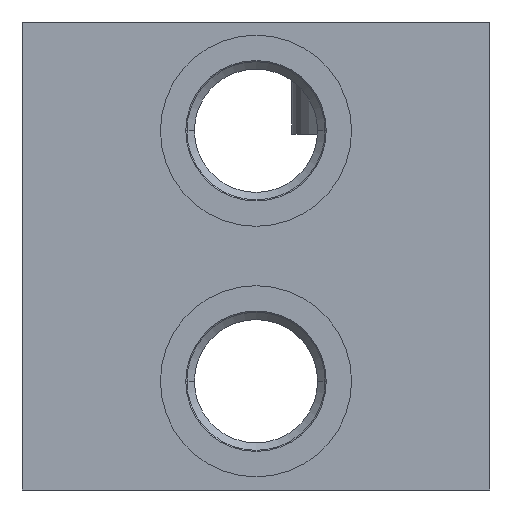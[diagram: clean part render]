
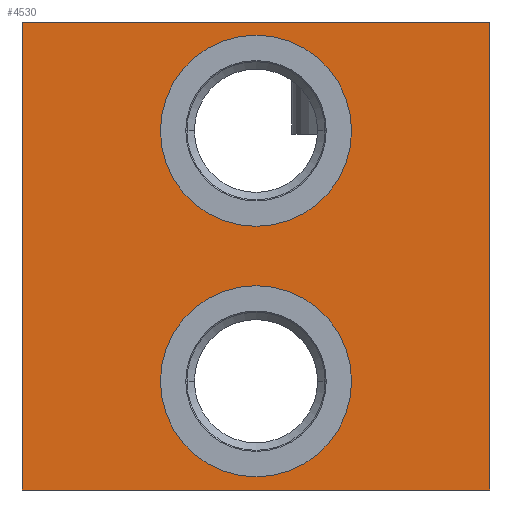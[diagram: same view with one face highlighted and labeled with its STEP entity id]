
A CAD part, left-side view. The second image highlights one B-rep face of the part: STEP entity #4530.
In plain terms, the highlighted planar face has unit normal (-1, 0, 0).
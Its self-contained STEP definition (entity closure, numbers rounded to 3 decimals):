
#30=DIRECTION('',(0.,-1.,0.));
#31=VECTOR('',#30,71.);
#32=CARTESIAN_POINT('',(0.,71.,0.));
#33=LINE('',#32,#31);
#163=DIRECTION('',(0.,0.,-1.));
#164=VECTOR('',#163,71.);
#165=CARTESIAN_POINT('',(0.,0.,0.));
#166=LINE('',#165,#164);
#868=DIRECTION('',(0.,0.,-1.));
#869=VECTOR('',#868,71.);
#870=CARTESIAN_POINT('',(0.,71.,0.));
#871=LINE('',#870,#869);
#875=CARTESIAN_POINT('',(0.,35.5,-54.5));
#876=DIRECTION('',(1.,0.,0.));
#877=DIRECTION('',(0.,-1.,0.));
#878=AXIS2_PLACEMENT_3D('',#875,#876,#877);
#883=CARTESIAN_POINT('',(0.,35.5,-54.5));
#884=DIRECTION('',(1.,0.,0.));
#885=DIRECTION('',(0.,1.,0.));
#886=AXIS2_PLACEMENT_3D('',#883,#884,#885);
#891=CARTESIAN_POINT('',(0.,35.5,-16.5));
#892=DIRECTION('',(1.,0.,0.));
#893=DIRECTION('',(0.,-1.,0.));
#894=AXIS2_PLACEMENT_3D('',#891,#892,#893);
#899=CARTESIAN_POINT('',(0.,35.5,-16.5));
#900=DIRECTION('',(1.,0.,0.));
#901=DIRECTION('',(0.,1.,0.));
#902=AXIS2_PLACEMENT_3D('',#899,#900,#901);
#928=DIRECTION('',(0.,-1.,0.));
#929=VECTOR('',#928,71.);
#930=CARTESIAN_POINT('',(0.,71.,-71.));
#931=LINE('',#930,#929);
#3729=CARTESIAN_POINT('',(0.,0.,0.));
#3731=VERTEX_POINT('',#3729);
#3735=CARTESIAN_POINT('',(0.,71.,0.));
#3736=VERTEX_POINT('',#3735);
#3737=CARTESIAN_POINT('',(0.,0.,-71.));
#3739=VERTEX_POINT('',#3737);
#3743=CARTESIAN_POINT('',(0.,71.,-71.));
#3744=VERTEX_POINT('',#3743);
#3773=CARTESIAN_POINT('',(0.,21.,-54.5));
#3774=CARTESIAN_POINT('',(0.,50.,-54.5));
#3775=VERTEX_POINT('',#3773);
#3776=VERTEX_POINT('',#3774);
#3789=CARTESIAN_POINT('',(0.,21.,-16.5));
#3790=CARTESIAN_POINT('',(0.,50.,-16.5));
#3791=VERTEX_POINT('',#3789);
#3792=VERTEX_POINT('',#3790);
#4506=CARTESIAN_POINT('',(0.,71.,0.));
#4507=DIRECTION('',(-1.,0.,0.));
#4508=DIRECTION('',(0.,-1.,0.));
#4509=AXIS2_PLACEMENT_3D('',#4506,#4507,#4508);
#4510=PLANE('',#4509);
#4511=ORIENTED_EDGE('',*,*,#4222,.T.);
#4512=ORIENTED_EDGE('',*,*,#4290,.T.);
#4514=ORIENTED_EDGE('',*,*,#4513,.F.);
#4515=ORIENTED_EDGE('',*,*,#4377,.F.);
#4516=EDGE_LOOP('',(#4511,#4512,#4514,#4515));
#4517=FACE_OUTER_BOUND('',#4516,.F.);
#4519=ORIENTED_EDGE('',*,*,#4518,.F.);
#4521=ORIENTED_EDGE('',*,*,#4520,.F.);
#4522=EDGE_LOOP('',(#4519,#4521));
#4523=FACE_BOUND('',#4522,.F.);
#4525=ORIENTED_EDGE('',*,*,#4524,.F.);
#4527=ORIENTED_EDGE('',*,*,#4526,.F.);
#4528=EDGE_LOOP('',(#4525,#4527));
#4529=FACE_BOUND('',#4528,.F.);
#879=CIRCLE('',#878,14.5);
#887=CIRCLE('',#886,14.5);
#895=CIRCLE('',#894,14.5);
#903=CIRCLE('',#902,14.5);
#4222=EDGE_CURVE('',#3736,#3731,#33,.T.);
#4290=EDGE_CURVE('',#3731,#3739,#166,.T.);
#4377=EDGE_CURVE('',#3736,#3744,#871,.T.);
#4513=EDGE_CURVE('',#3744,#3739,#931,.T.);
#4518=EDGE_CURVE('',#3775,#3776,#879,.T.);
#4520=EDGE_CURVE('',#3776,#3775,#887,.T.);
#4524=EDGE_CURVE('',#3791,#3792,#895,.T.);
#4526=EDGE_CURVE('',#3792,#3791,#903,.T.);
#4530=ADVANCED_FACE('',(#4517,#4523,#4529),#4510,.T.);
